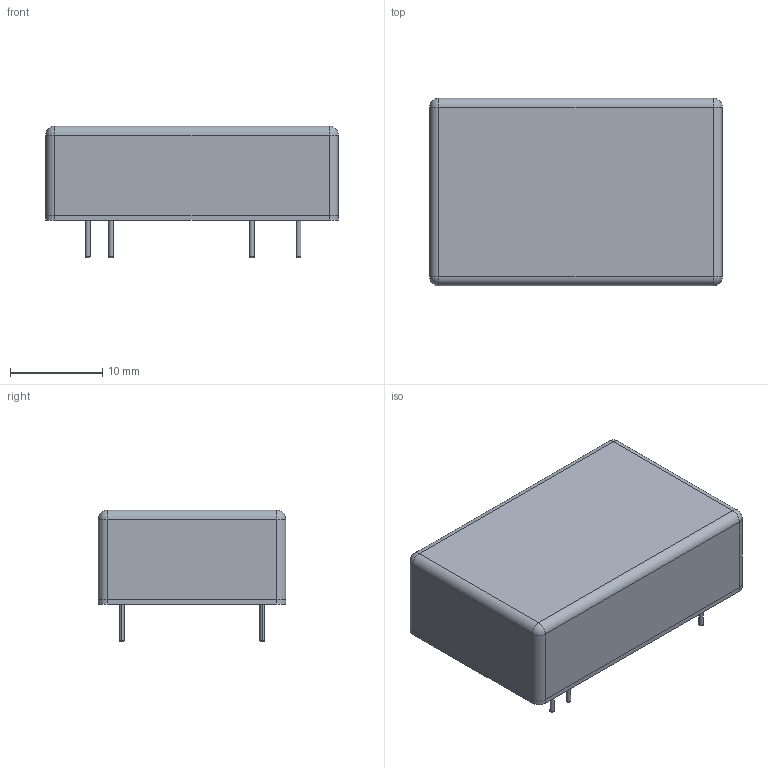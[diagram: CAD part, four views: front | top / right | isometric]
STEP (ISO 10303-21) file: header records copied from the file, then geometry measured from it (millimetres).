
FILE_DESCRIPTION (( 'STEP AP214' ), '1' );
FILE_NAME ('ten5wi-single.STEP', '2015-11-12T08:51:04', ( '' ), ( '' ), 'SwSTEP 2.0', 'SolidWorks 2013', '' );
FILE_SCHEMA (( 'AUTOMOTIVE_DESIGN' ));
Length unit declared in the file: millimetre
Products named in the file (10): ten5wi-single; Pin23; Pin22; Pin14; Pin11; Pin16; Pin3; Pin2; Base; Case
Assembly tree (9 placements, depth 2):
  ten5wi-single
    Case
    Base
    Pin2
    Pin3
    Pin16
    Pin11
    Pin14
    Pin22
    Pin23
Bounding box: 31.75 x 20.32 x 14.3 mm (x, y, z)
Volume: 6555.8 mm3; surface area: 3624.7 mm2
Topology: 9 solids, 9 shells, 70 faces, 134 edges, 78 vertices
Faces by surface type: plane 26, cylinder 26, torus 14, sphere 4
Entity records: 3088 total; most frequent: CARTESIAN_POINT 465, DIRECTION 360, ORIENTED_EDGE 260, AXIS2_PLACEMENT_3D 155, EDGE_CURVE 130, UNCERTAINTY_MEASURE_WITH_UNIT 98, SURFACE_STYLE_FILL_AREA 88, FILL_AREA_STYLE_COLOUR 88
